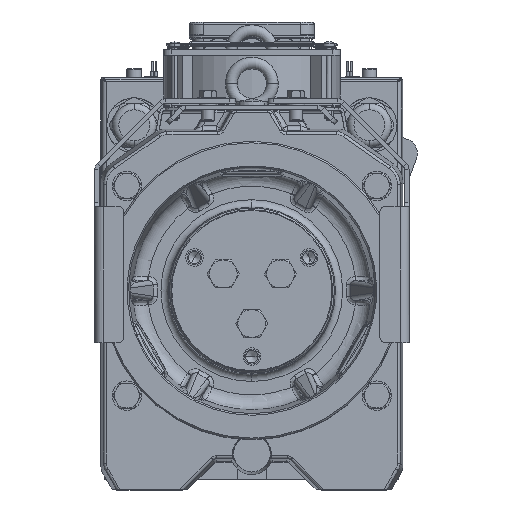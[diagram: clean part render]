
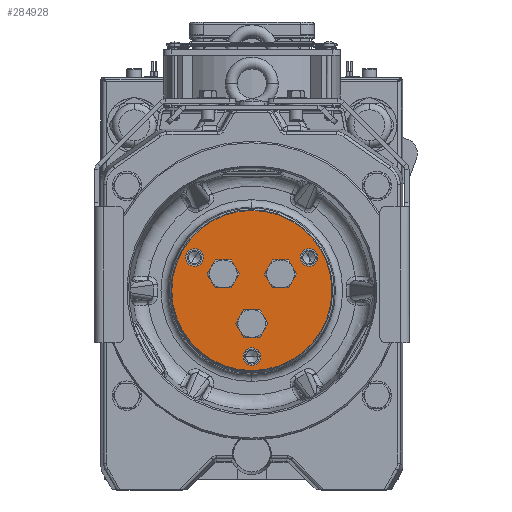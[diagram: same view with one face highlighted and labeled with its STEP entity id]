
A CAD part, top view. The second image highlights one B-rep face of the part: STEP entity #284928.
In plain terms, the highlighted planar face has unit normal (0, 0, 1) as drawn and (0, -1, 0) by its records, which use the part's own axes.
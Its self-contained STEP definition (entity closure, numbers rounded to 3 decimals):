
#284585=CARTESIAN_POINT('',(0.,0.,
0.));
#284586=DIRECTION('',(0.,-1.,0.));
#284587=DIRECTION('',(-1.,0.,0.));
#284588=AXIS2_PLACEMENT_3D('',#284585,#284586,#284587);
#284590=CARTESIAN_POINT('',(0.,0.,
0.));
#284591=DIRECTION('',(0.,-1.,0.));
#284592=DIRECTION('',(1.,0.,0.));
#284593=AXIS2_PLACEMENT_3D('',#284590,#284591,#284592);
#284595=CARTESIAN_POINT('',(0.,0.,-22.5));
#284596=DIRECTION('',(0.,-1.,0.));
#284597=DIRECTION('',(1.,0.,0.));
#284598=AXIS2_PLACEMENT_3D('',#284595,#284596,#284597);
#284600=CARTESIAN_POINT('',(0.,0.,-22.5));
#284601=DIRECTION('',(0.,-1.,0.));
#284602=DIRECTION('',(-1.,0.,0.));
#284603=AXIS2_PLACEMENT_3D('',#284600,#284601,#284602);
#284605=CARTESIAN_POINT('',(19.486,0.,11.25));
#284606=DIRECTION('',(0.,-1.,0.));
#284607=DIRECTION('',(-0.5,0.,0.866));
#284608=AXIS2_PLACEMENT_3D('',#284605,#284606,#284607);
#284610=CARTESIAN_POINT('',(19.486,0.,11.25));
#284611=DIRECTION('',(0.,-1.,0.));
#284612=DIRECTION('',(0.5,0.,-0.866));
#284613=AXIS2_PLACEMENT_3D('',#284610,#284611,#284612);
#284615=CARTESIAN_POINT('',(-19.486,0.,11.25));
#284616=DIRECTION('',(0.,-1.,0.));
#284617=DIRECTION('',(-0.5,0.,-0.866));
#284618=AXIS2_PLACEMENT_3D('',#284615,#284616,#284617);
#284620=CARTESIAN_POINT('',(-19.486,0.,11.25));
#284621=DIRECTION('',(0.,-1.,0.));
#284622=DIRECTION('',(0.5,0.,0.866));
#284623=AXIS2_PLACEMENT_3D('',#284620,#284621,#284622);
#284625=CARTESIAN_POINT('',(0.,0.,-45.));
#284626=DIRECTION('',(0.,-1.,0.));
#284627=DIRECTION('',(1.,0.,0.));
#284628=AXIS2_PLACEMENT_3D('',#284625,#284626,#284627);
#284630=CARTESIAN_POINT('',(0.,0.,-45.));
#284631=DIRECTION('',(0.,-1.,0.));
#284632=DIRECTION('',(-1.,0.,0.));
#284633=AXIS2_PLACEMENT_3D('',#284630,#284631,#284632);
#284635=CARTESIAN_POINT('',(38.971,0.,22.5));
#284636=DIRECTION('',(0.,-1.,0.));
#284637=DIRECTION('',(-0.5,0.,0.866));
#284638=AXIS2_PLACEMENT_3D('',#284635,#284636,#284637);
#284640=CARTESIAN_POINT('',(38.971,0.,22.5));
#284641=DIRECTION('',(0.,-1.,0.));
#284642=DIRECTION('',(0.5,0.,-0.866));
#284643=AXIS2_PLACEMENT_3D('',#284640,#284641,#284642);
#284645=CARTESIAN_POINT('',(-38.971,0.,22.5));
#284646=DIRECTION('',(0.,-1.,0.));
#284647=DIRECTION('',(-0.5,0.,-0.866));
#284648=AXIS2_PLACEMENT_3D('',#284645,#284646,#284647);
#284650=CARTESIAN_POINT('',(-38.971,0.,22.5));
#284651=DIRECTION('',(0.,-1.,0.));
#284652=DIRECTION('',(0.5,0.,0.866));
#284653=AXIS2_PLACEMENT_3D('',#284650,#284651,#284652);
#284829=CARTESIAN_POINT('',(6.5,0.,-22.5));
#284830=CARTESIAN_POINT('',(-6.5,0.,-22.5));
#284831=VERTEX_POINT('',#284829);
#284832=VERTEX_POINT('',#284830);
#284837=CARTESIAN_POINT('',(16.236,0.,16.879));
#284838=CARTESIAN_POINT('',(22.736,0.,5.621));
#284839=VERTEX_POINT('',#284837);
#284840=VERTEX_POINT('',#284838);
#284845=CARTESIAN_POINT('',(-22.736,0.,5.621));
#284846=CARTESIAN_POINT('',(-16.236,0.,16.879));
#284847=VERTEX_POINT('',#284845);
#284848=VERTEX_POINT('',#284846);
#284853=CARTESIAN_POINT('',(6.,0.,-45.));
#284854=CARTESIAN_POINT('',(-6.,0.,-45.));
#284855=VERTEX_POINT('',#284853);
#284856=VERTEX_POINT('',#284854);
#284861=CARTESIAN_POINT('',(35.971,0.,27.696));
#284862=CARTESIAN_POINT('',(41.971,0.,17.304));
#284863=VERTEX_POINT('',#284861);
#284864=VERTEX_POINT('',#284862);
#284869=CARTESIAN_POINT('',(-41.971,0.,17.304));
#284870=CARTESIAN_POINT('',(-35.971,0.,27.696));
#284871=VERTEX_POINT('',#284869);
#284872=VERTEX_POINT('',#284870);
#284877=CARTESIAN_POINT('',(-54.5,0.,0.));
#284878=CARTESIAN_POINT('',(54.5,0.,0.));
#284879=VERTEX_POINT('',#284877);
#284880=VERTEX_POINT('',#284878);
#284881=CARTESIAN_POINT('',(0.,0.,0.));
#284882=DIRECTION('',(0.,-1.,0.));
#284883=DIRECTION('',(-1.,0.,0.));
#284884=AXIS2_PLACEMENT_3D('',#284881,#284882,#284883);
#284885=PLANE('',#284884);
#284887=ORIENTED_EDGE('',*,*,#284886,.F.);
#284889=ORIENTED_EDGE('',*,*,#284888,.F.);
#284890=EDGE_LOOP('',(#284887,#284889));
#284891=FACE_OUTER_BOUND('',#284890,.F.);
#284893=ORIENTED_EDGE('',*,*,#284892,.T.);
#284895=ORIENTED_EDGE('',*,*,#284894,.T.);
#284896=EDGE_LOOP('',(#284893,#284895));
#284897=FACE_BOUND('',#284896,.F.);
#284899=ORIENTED_EDGE('',*,*,#284898,.T.);
#284901=ORIENTED_EDGE('',*,*,#284900,.T.);
#284902=EDGE_LOOP('',(#284899,#284901));
#284903=FACE_BOUND('',#284902,.F.);
#284905=ORIENTED_EDGE('',*,*,#284904,.T.);
#284907=ORIENTED_EDGE('',*,*,#284906,.T.);
#284908=EDGE_LOOP('',(#284905,#284907));
#284909=FACE_BOUND('',#284908,.F.);
#284911=ORIENTED_EDGE('',*,*,#284910,.T.);
#284913=ORIENTED_EDGE('',*,*,#284912,.T.);
#284914=EDGE_LOOP('',(#284911,#284913));
#284915=FACE_BOUND('',#284914,.F.);
#284917=ORIENTED_EDGE('',*,*,#284916,.T.);
#284919=ORIENTED_EDGE('',*,*,#284918,.T.);
#284920=EDGE_LOOP('',(#284917,#284919));
#284921=FACE_BOUND('',#284920,.F.);
#284923=ORIENTED_EDGE('',*,*,#284922,.T.);
#284925=ORIENTED_EDGE('',*,*,#284924,.T.);
#284926=EDGE_LOOP('',(#284923,#284925));
#284927=FACE_BOUND('',#284926,.F.);
#284928=ADVANCED_FACE('',(#284891,#284897,#284903,#284909,#284915,#284921,
#284927),#284885,.T.);
#284589=CIRCLE('',#284588,54.5);
#284594=CIRCLE('',#284593,54.5);
#284599=CIRCLE('',#284598,6.5);
#284604=CIRCLE('',#284603,6.5);
#284609=CIRCLE('',#284608,6.5);
#284614=CIRCLE('',#284613,6.5);
#284619=CIRCLE('',#284618,6.5);
#284624=CIRCLE('',#284623,6.5);
#284629=CIRCLE('',#284628,6.);
#284634=CIRCLE('',#284633,6.);
#284639=CIRCLE('',#284638,6.);
#284644=CIRCLE('',#284643,6.);
#284649=CIRCLE('',#284648,6.);
#284654=CIRCLE('',#284653,6.);
#284886=EDGE_CURVE('',#284879,#284880,#284589,.T.);
#284888=EDGE_CURVE('',#284880,#284879,#284594,.T.);
#284892=EDGE_CURVE('',#284831,#284832,#284599,.T.);
#284894=EDGE_CURVE('',#284832,#284831,#284604,.T.);
#284898=EDGE_CURVE('',#284839,#284840,#284609,.T.);
#284900=EDGE_CURVE('',#284840,#284839,#284614,.T.);
#284904=EDGE_CURVE('',#284847,#284848,#284619,.T.);
#284906=EDGE_CURVE('',#284848,#284847,#284624,.T.);
#284910=EDGE_CURVE('',#284855,#284856,#284629,.T.);
#284912=EDGE_CURVE('',#284856,#284855,#284634,.T.);
#284916=EDGE_CURVE('',#284863,#284864,#284639,.T.);
#284918=EDGE_CURVE('',#284864,#284863,#284644,.T.);
#284922=EDGE_CURVE('',#284871,#284872,#284649,.T.);
#284924=EDGE_CURVE('',#284872,#284871,#284654,.T.);
